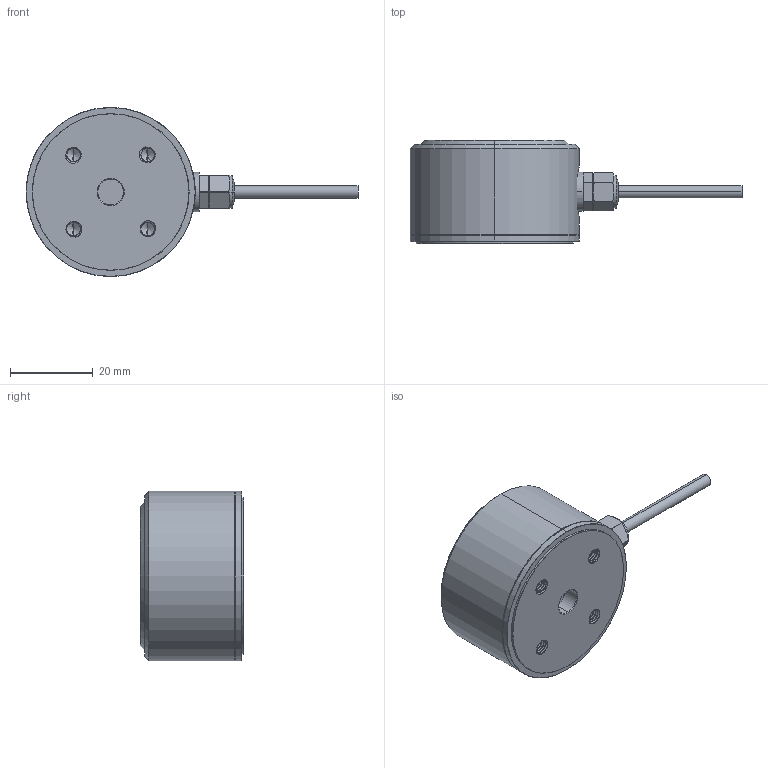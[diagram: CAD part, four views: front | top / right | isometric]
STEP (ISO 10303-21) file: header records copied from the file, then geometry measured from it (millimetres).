
FILE_DESCRIPTION (( 'STEP AP203' ), '1' );
FILE_NAME ('LCF06.STEP', '2024-08-09T02:44:12', ( '' ), ( '' ), 'SwSTEP 2.0', 'SolidWorks 2019', '' );
FILE_SCHEMA (( 'CONFIG_CONTROL_DESIGN' ));
Length unit declared in the file: millimetre
Products named in the file (1): LCF06
Bounding box: 80.4 x 25 x 41 mm (x, y, z)
Volume: 31048.2 mm3; surface area: 12149.9 mm2
Topology: 2 solids, 2 shells, 284 faces, 748 edges, 472 vertices
Faces by surface type: cylinder 170, cone 46, plane 36, bspline 24, torus 8
Entity records: 28551 total; most frequent: CARTESIAN_POINT 22365, ORIENTED_EDGE 1464, DIRECTION 1052, EDGE_CURVE 732, VERTEX_POINT 472, AXIS2_PLACEMENT_3D 417, EDGE_LOOP 304, ADVANCED_FACE 284
